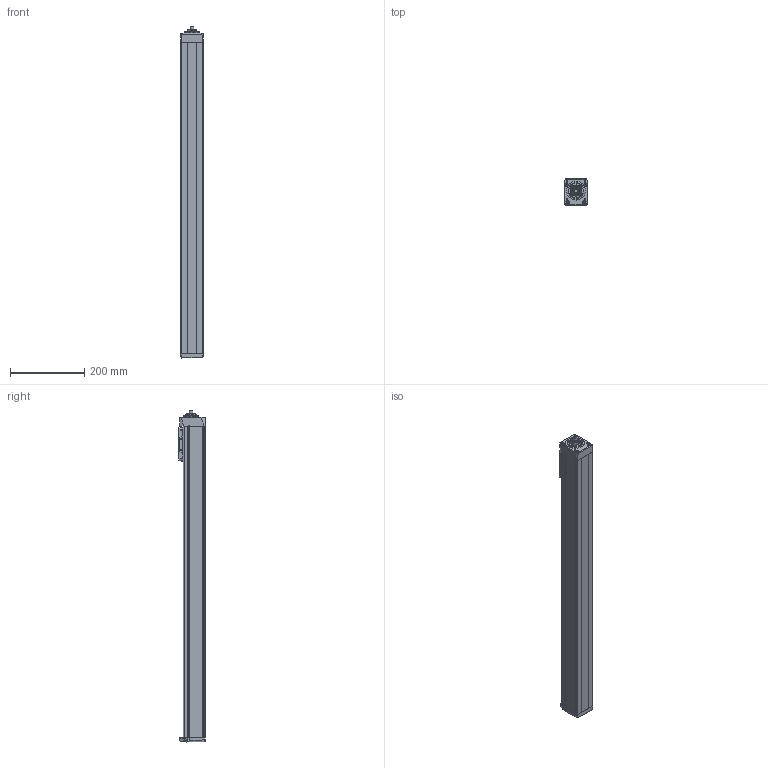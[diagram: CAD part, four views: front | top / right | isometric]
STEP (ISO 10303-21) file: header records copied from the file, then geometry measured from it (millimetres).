
FILE_DESCRIPTION(/* description */ ('STEP AP214'),/* implementation_level */ '2;1');
FILE_NAME(/* name */ 'MGBS 60 1210 700(0)',/* time_stamp */ '2023-04-17T13:20:43+02:00',/* author */ ('License CC BY-ND 4.0'),/* organization */ ('CADENAS'),/* preprocessor_version */ 'ST-DEVELOPER v19.3',/* originating_system */ 'PARTsolutions',/* authorisation */ ' ');
FILE_SCHEMA (('AUTOMOTIVE_DESIGN {1 0 10303 214 3 1 1}'));
Length unit declared in the file: millimetre
Products named in the file (6): MGBS 60 1210 700(0); MGBS 60 700_protection_strip; MGBS 60_carriage; MGBS 60_end_block; MGBS 60 700_profile; MGBS 60_drive_block
Assembly tree (5 placements, depth 2):
  MGBS 60 1210 700(0)
    MGBS 60 700_protection_strip
    MGBS 60_carriage
    MGBS 60_end_block
    MGBS 60 700_profile
    MGBS 60_drive_block
Bounding box: 60 x 72 x 892 mm (x, y, z)
Volume: 3066504 mm3; surface area: 374321.1 mm2
Topology: 5 solids, 5 shells, 694 faces, 1756 edges, 1135 vertices
Faces by surface type: plane 366, cylinder 144, cone 97, bspline 62, torus 23, sphere 2
Full cylindrical faces by diameter (mm): 2.459 x2, 2.46 x2, 3.242 x4, 4 x14, 4.134 x8, 4.8 x2, 5 x2, 5.5 x4, 7 x8, 7.6 x4, 8 x2, 10 x1, 11 x3, 23.8 x1, 30 x1, 42 x2, 50.2 x1
Entity records: 24817 total; most frequent: CARTESIAN_POINT 4104, DIRECTION 3372, ORIENTED_EDGE 3194, EDGE_CURVE 1597, AXIS2_PLACEMENT_3D 1197, VERTEX_POINT 1113, LINE 978, VECTOR 978
